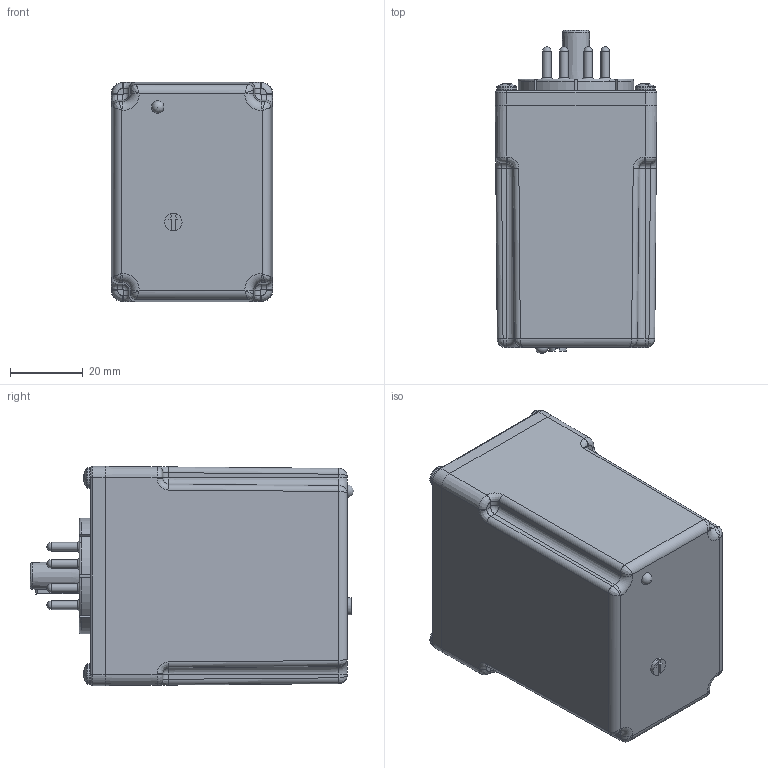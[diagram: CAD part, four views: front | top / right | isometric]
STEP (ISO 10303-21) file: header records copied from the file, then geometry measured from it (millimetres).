
FILE_DESCRIPTION(('FreeCAD Model'),'2;1');
FILE_NAME('Open CASCADE Shape Model','2023-06-06T13:00:46',(''),(''), 'Open CASCADE STEP processor 7.6','FreeCAD','Unknown');
FILE_SCHEMA(('AUTOMOTIVE_DESIGN { 1 0 10303 214 1 1 1 1 }'));
Products named in the file (1): Compound
Bounding box: 44.45 x 88.95 x 60.33 mm (x, y, z)
Surface area: 43566.4 mm2 (no closed solid volume)
Topology: 0 solids, 20 shells, 1860 faces, 4765 edges, 2955 vertices
Faces by surface type: plane 702, cylinder 683, bspline 200, torus 121, sphere 57, cone 57, revolution 40
Full cylindrical faces by diameter (mm): 0.254 x16, 1.257 x8, 1.714 x8, 1.905 x16, 2.362 x16, 2.464 x8, 3.175 x4, 4.191 x8, 4.83 x1, 7.925 x1
Entity records: 174861 total; most frequent: CARTESIAN_POINT 85238, DIRECTION 15325, ORIENTED_EDGE 9384, PCURVE 9384, DEFINITIONAL_REPRESENTATION 9384, LINE 9134, VECTOR 9134, EDGE_CURVE 4700
